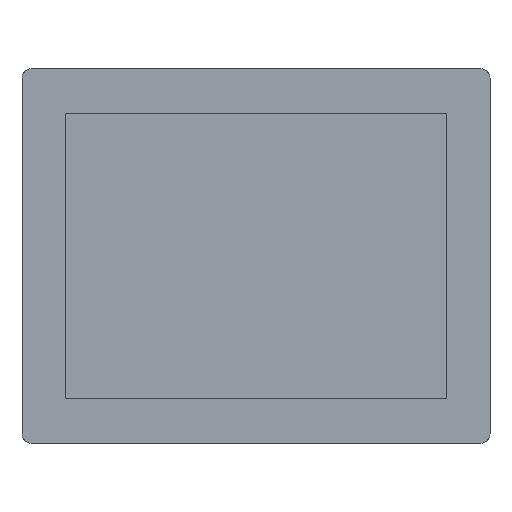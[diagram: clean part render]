
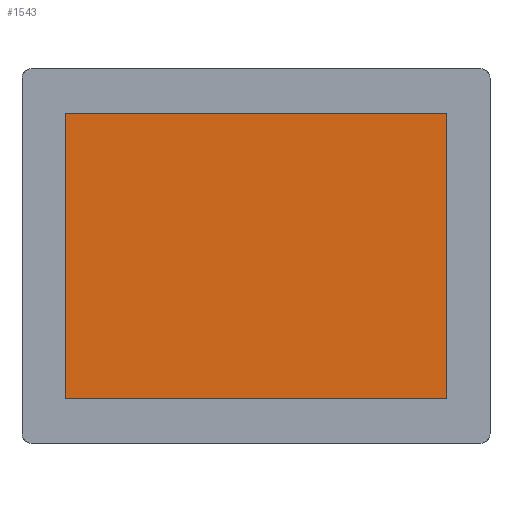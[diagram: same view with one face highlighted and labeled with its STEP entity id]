
A CAD part, top view. The second image highlights one B-rep face of the part: STEP entity #1543.
In plain terms, the highlighted planar face has unit normal (0, 0, 1).
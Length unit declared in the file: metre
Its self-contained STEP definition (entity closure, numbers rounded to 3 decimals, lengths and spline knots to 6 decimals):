
#226=ORIENTED_EDGE('',*,*,#571,.F.);
#227=ORIENTED_EDGE('',*,*,#574,.T.);
#228=ORIENTED_EDGE('',*,*,#576,.T.);
#229=ORIENTED_EDGE('',*,*,#577,.F.);
#571=EDGE_CURVE('',#750,#751,#899,.T.);
#574=EDGE_CURVE('',#750,#752,#902,.T.);
#576=EDGE_CURVE('',#752,#753,#904,.T.);
#577=EDGE_CURVE('',#751,#753,#905,.T.);
#750=VERTEX_POINT('',#2376);
#751=VERTEX_POINT('',#2378);
#752=VERTEX_POINT('',#2382);
#753=VERTEX_POINT('',#2386);
#899=LINE('',#2377,#1023);
#902=LINE('',#2383,#1026);
#904=LINE('',#2387,#1028);
#905=LINE('',#2389,#1029);
#1023=VECTOR('',#1913,1.);
#1026=VECTOR('',#1918,1.);
#1028=VECTOR('',#1922,1.);
#1029=VECTOR('',#1925,1.);
#1136=EDGE_LOOP('',(#226,#227,#228,#229));
#1310=FACE_BOUND('',#1136,.T.);
#1475=PLANE('',#1681);
#1543=ADVANCED_FACE('',(#1310),#1475,.T.);
#1681=AXIS2_PLACEMENT_3D('',#2390,#1926,#1927);
#1913=DIRECTION('',(0.,-1.,0.));
#1918=DIRECTION('',(-1.,0.,0.));
#1922=DIRECTION('',(0.,-1.,0.));
#1925=DIRECTION('',(-1.,0.,0.));
#1926=DIRECTION('',(0.,0.,1.));
#1927=DIRECTION('',(1.,0.,0.));
#2376=CARTESIAN_POINT('',(0.0815,0.061,0.00179));
#2377=CARTESIAN_POINT('',(0.0815,0.,0.00179));
#2378=CARTESIAN_POINT('',(0.0815,-0.061,0.00179));
#2382=CARTESIAN_POINT('',(-0.0815,0.061,0.00179));
#2383=CARTESIAN_POINT('',(0.,0.061,0.00179));
#2386=CARTESIAN_POINT('',(-0.0815,-0.061,0.00179));
#2387=CARTESIAN_POINT('',(-0.0815,0.,0.00179));
#2389=CARTESIAN_POINT('',(0.,-0.061,0.00179));
#2390=CARTESIAN_POINT('',(0.,0.,0.00179));
